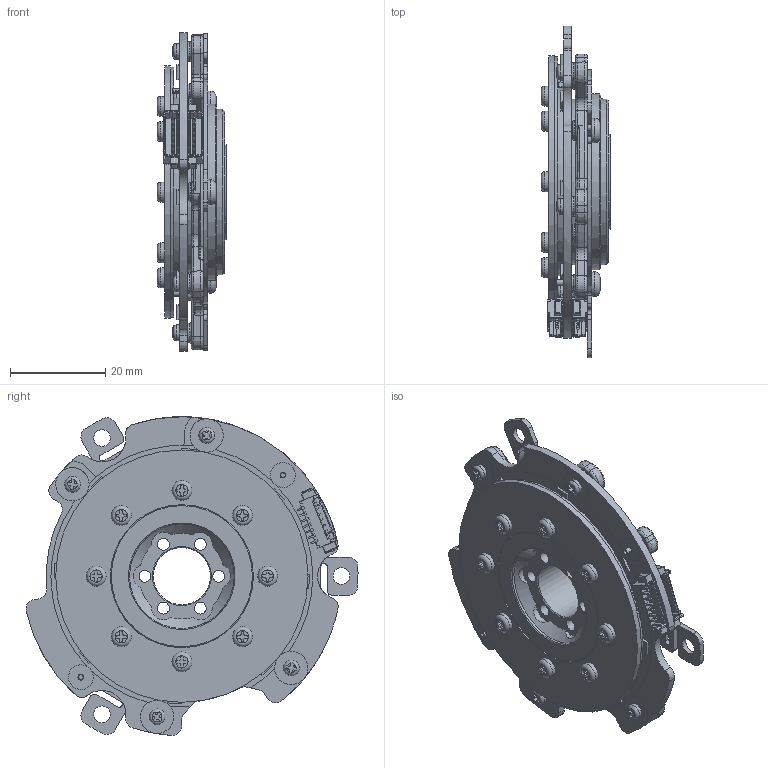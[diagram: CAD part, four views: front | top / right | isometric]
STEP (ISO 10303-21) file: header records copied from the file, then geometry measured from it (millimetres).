
FILE_DESCRIPTION(/* description */ (''),/* implementation_level */ '2;1');
FILE_NAME(/* name */ 'EAS-014A.stp',/* time_stamp */ '2025-05-19T08:43:55+08:00',/* author */ (''),/* organization */ (''),/* preprocessor_version */ 'ST-DEVELOPER v15',/* originating_system */ 'SIEMENS PLM Software NX 8.5',/* authorisation */ '');
FILE_SCHEMA (('AUTOMOTIVE_DESIGN { 1 0 10303 214 3 1 1 1 }'));
Products named in the file (1): LeiX0E1808938ugc
Bounding box: 14.7 x 69.73 x 66.93 mm (x, y, z)
Volume: 19276.8 mm3; surface area: 26042.8 mm2
Topology: 43 solids, 43 shells, 2222 faces, 5816 edges, 3819 vertices
Faces by surface type: plane 1244, cylinder 586, bspline 136, cone 128, torus 124, sphere 4
Full cylindrical faces by diameter (mm): 1 x2, 1.5 x1, 1.6 x4, 2 x4, 2.05 x8, 2.5 x17, 2.7 x8, 3 x11, 3.1 x3, 3.3 x4, 3.5 x3, 4.2 x8, 5 x4, 5.2 x3, 12 x1, 19.9 x1, 20 x2, 22 x1, 22.4 x2, 29.3 x2, 30.03 x1, 30.04 x1, 30.1 x1, 30.2 x1, 32 x5, 38.2 x1, 39.5 x2, 40.5 x1, 52.5 x1, 53 x1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
Entity records: 73288 total; most frequent: CARTESIAN_POINT 20783, ORIENTED_EDGE 10952, DIRECTION 10189, EDGE_CURVE 5476, VERTEX_POINT 3698, LINE 3481, VECTOR 3481, AXIS2_PLACEMENT_3D 3354
